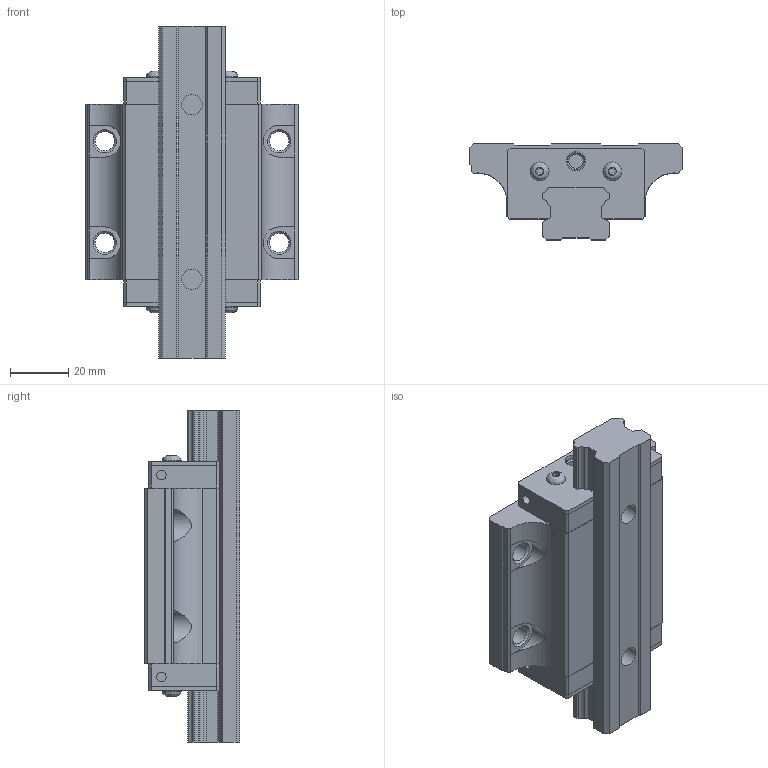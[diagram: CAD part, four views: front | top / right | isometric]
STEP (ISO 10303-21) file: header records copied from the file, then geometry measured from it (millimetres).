
FILE_DESCRIPTION( ( 'STEP AP214' ), '1' );
FILE_NAME( 'D:/濛機/紫賊/螃渦紫賊/BSQ LM BLOCK/賅筐葭/MCS/MCS25F.stp', '2019-09-02T12:15:23', ( ' ' ), ( ' ' ), 'XStep 1.0', 'VISICAD', ' ' );
FILE_SCHEMA( ( 'automotive_design' ) );
Length unit declared in the file: metre
Products named in the file (4): 1; 2; 3; 4
Bounding box: 73 x 33 x 114.2 mm (x, y, z)
Volume: 132300.2 mm3; surface area: 35194.7 mm2
Topology: 4 solids, 4 shells, 262 faces, 690 edges, 456 vertices
Faces by surface type: plane 202, cylinder 46, cone 10, bspline 4
Full cylindrical faces by diameter (mm): 3.3 x4, 4.917 x2, 6.5 x10, 6.647 x4, 7 x2, 11 x2
Entity records: 10190 total; most frequent: CARTESIAN_POINT 1642, ORIENTED_EDGE 1284, DIRECTION 1280, EDGE_CURVE 642, LINE 520, VECTOR 520, VERTEX_POINT 446, AXIS2_PLACEMENT_3D 380
